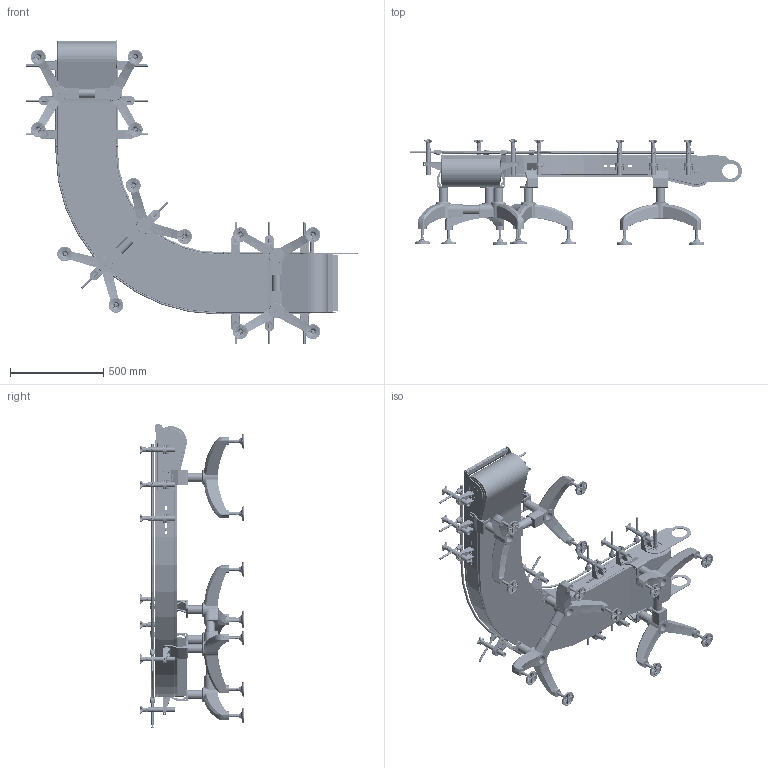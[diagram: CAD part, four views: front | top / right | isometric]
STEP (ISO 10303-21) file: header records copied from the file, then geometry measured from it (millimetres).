
FILE_DESCRIPTION(/* description */ (''),/* implementation_level */ '2;1');
FILE_NAME(/* name */ 'beltconveyor_a010b_w300_ang90.stp',/* time_stamp */ '2024-12-15T02:54:11+08:00',/* author */ (''),/* organization */ (''),/* preprocessor_version */ 'ST-DEVELOPER v16.7',/* originating_system */ 'SIEMENS PLM Software NX 12.0',/* authorisation */ '');
FILE_SCHEMA (('AUTOMOTIVE_DESIGN { 1 0 10303 214 3 1 1 1 }'));
Products named in the file (40): Return-Shaft-EMST-L-312-SS-easy_Return-Shaft-easy; Side-Guide-Profile-Hor-Curve-Right-Inner-SRR-easy_Section-2-Side-Guid
e-Profile-Hor-Curve-Right-Inner-SRR-easy; Drive-Shaft-EMST-L-312-SS-easy_Direct-Drive-Shaft-easy; Motor-Plate-EMST-L-312-SS-easy_Motor-Plate-easy; Profile-Drive-Unit-Belt-EMST-L-312-SS-easy_Profile-Drive-Unit-Belt-ea
sy; Plate-Drive-Unit-B-EMST-L-312-SS-easy_Plate-Drive-Unit-B-easy; Plate-Drive-Unit-A-EMST-L-312-SS-easy_Plate-Drive-Unit-A-easy; Top-Plate-Double-Transfer-Unit-easy_Top-Plate-Double-Transfer-Unit-ea
sy; Side-Plate-Double-Transfer-Unit-easy_Side-Plate-Double-Transfer-Unit-
easy; Profile-Middle-EMST-L-312-SS-easy_Profile-Middle-SS-easy; Hor-Curve-Profile-Right-Outer-EMST-L-312-SS-easy_Section-2-Hor-Curve-
Profile-Right-Outer-SS-easy; Hor-Curve-Profile-Right-Inner-EMST-L-312-SS-easy_Section-2-Hor-Curve-
Profile-Right-Inner-SS-easy; Hor-Curve-Profile-Belt-Right-EMST-L-312-SS-easy_Section-2-Hor-Curve-P
rofile-Belt-Right-easy; Side-Guide-Profile-Hor-Curve-Right-Outer-SRR-easy_Section-2-Side-Guid
e-Profile-Hor-Curve-Right-Outer-SRR-easy; Side-Guide-Profile-SRR-easy_Section-1-Side-Guide-Profile-SRR-easy; Top-Plate-Single-Transfer-Unit-easy_Top-Plate-Single-Transfer-Unit-ea
sy; Side-Plate-Single-Transfer-Unit-easy_Side-Plate-Single-Transfer-Unit-
easy; Support-Leg-L-SS-312x480-easy_Section-3-Support-Leg-easy; Support-Middle-Profile-L-SS-312x480-easy; Support-Leg-L-SS-312x480-easy_Section-2-Support-Leg-easy; Support-Leg-L-SS-312x480-easy_Section-1-Support-Leg-easy; Support-Bracket-L-SS-easy; Side-Guide-Arm-Hor-SS-easy_Arm-Hor-Side-Guide-easy; Side-Guide-Bracket-SS-easy; Side-Guide-Arm-Ver-SS-easy_Arm-Ver-Side-Guide-easy; Side-Guide-Profile-SRR-easy_Section-3-Side-Guide-Profile-SRR-easy; Side-Guide-Mount-SS-easy; Return-Unit-EMST-L-312-easy_Return-Unit-easy; Side-Guide-Hor-Curve-Right-Inner-Br-3-SS-SRR-easy_Section-2-Side-Guid
e-Hor-Curve-Right-Inner-SRR-easy; Direct-Drive-Unit-EMST-L-312-easy_Direct-Drive-Unit-Left-easy; Double-Transfer-Unit-easy_Double-Transfer-Unit-easy; Hor-Curve-Unit-Right-EMST-L-312-SS-easy_Section-2-Hor-Curve-Unit-Righ
t-SS-easy; Side-Guide-Hor-Curve-Right-Outer-Br-3-SS-SRR-easy_Section-2-Side-Guid
e-Hor-Curve-Right-Outer-SRR-easy; Side-Guide-Br-3-SS-SRR-easy_Section-1-Side-Guide-SRR-easy; Support-L-SS-312x480-easy_Section-1-Support-easy; Single-Transfer-Unit-easy_Single-Transfer-Unit-easy; Support-L-SS-312x480-easy_Section-3-Support-easy; Support-Right-L-SS-312x480-easy_Section-2-Support-Right-easy; Side-Guide-Br-3-SS-SRR-easy_Section-3-Side-Guide-SRR-easy; beltconveyor_a010b_w300_ang90
Assembly tree (94 placements, depth 3):
  beltconveyor_a010b_w300_ang90
    Side-Guide-Br-3-SS-SRR-easy_Section-3-Side-Guide-SRR-easy  x2
      Side-Guide-Mount-SS-easy
      Side-Guide-Profile-SRR-easy_Section-3-Side-Guide-Profile-SRR-easy
      Side-Guide-Arm-Ver-SS-easy_Arm-Ver-Side-Guide-easy
      Side-Guide-Bracket-SS-easy
      Side-Guide-Arm-Hor-SS-easy_Arm-Hor-Side-Guide-easy
    Support-Right-L-SS-312x480-easy_Section-2-Support-Right-easy
      Support-Bracket-L-SS-easy  x2
      Support-Leg-L-SS-312x480-easy_Section-1-Support-Leg-easy
      Support-Leg-L-SS-312x480-easy_Section-2-Support-Leg-easy
      Support-Middle-Profile-L-SS-312x480-easy
    Support-L-SS-312x480-easy_Section-3-Support-easy
      Support-Bracket-L-SS-easy  x2
      Support-Leg-L-SS-312x480-easy_Section-3-Support-Leg-easy  x2
      Support-Middle-Profile-L-SS-312x480-easy
    Single-Transfer-Unit-easy_Single-Transfer-Unit-easy
      Side-Plate-Single-Transfer-Unit-easy_Side-Plate-Single-Transfer-Unit-
easy  x2
      Top-Plate-Single-Transfer-Unit-easy_Top-Plate-Single-Transfer-Unit-ea
sy
    Support-L-SS-312x480-easy_Section-1-Support-easy
      Support-Middle-Profile-L-SS-312x480-easy
      Support-Leg-L-SS-312x480-easy_Section-1-Support-Leg-easy  x2
      Support-Bracket-L-SS-easy  x2
    Side-Guide-Br-3-SS-SRR-easy_Section-1-Side-Guide-SRR-easy  x2
      Side-Guide-Bracket-SS-easy
      Side-Guide-Arm-Hor-SS-easy_Arm-Hor-Side-Guide-easy
      Side-Guide-Arm-Ver-SS-easy_Arm-Ver-Side-Guide-easy
      Side-Guide-Mount-SS-easy
      Side-Guide-Profile-SRR-easy_Section-1-Side-Guide-Profile-SRR-easy
    Side-Guide-Hor-Curve-Right-Outer-Br-3-SS-SRR-easy_Section-2-Side-Guid
e-Hor-Curve-Right-Outer-SRR-easy
      Side-Guide-Arm-Hor-SS-easy_Arm-Hor-Side-Guide-easy  x3
      Side-Guide-Profile-Hor-Curve-Right-Outer-SRR-easy_Section-2-Side-Guid
e-Profile-Hor-Curve-Right-Outer-SRR-easy
      Side-Guide-Arm-Ver-SS-easy_Arm-Ver-Side-Guide-easy  x3
      Side-Guide-Bracket-SS-easy  x3
      Side-Guide-Mount-SS-easy  x3
    Hor-Curve-Unit-Right-EMST-L-312-SS-easy_Section-2-Hor-Curve-Unit-Righ
t-SS-easy
      Hor-Curve-Profile-Belt-Right-EMST-L-312-SS-easy_Section-2-Hor-Curve-P
rofile-Belt-Right-easy  x2
      Hor-Curve-Profile-Right-Inner-EMST-L-312-SS-easy_Section-2-Hor-Curve-
Profile-Right-Inner-SS-easy
      Hor-Curve-Profile-Right-Outer-EMST-L-312-SS-easy_Section-2-Hor-Curve-
Profile-Right-Outer-SS-easy
      Profile-Middle-EMST-L-312-SS-easy_Profile-Middle-SS-easy  x2
    Double-Transfer-Unit-easy_Double-Transfer-Unit-easy
      Side-Plate-Double-Transfer-Unit-easy_Side-Plate-Double-Transfer-Unit-
easy  x2
      Top-Plate-Double-Transfer-Unit-easy_Top-Plate-Double-Transfer-Unit-ea
sy
    Direct-Drive-Unit-EMST-L-312-easy_Direct-Drive-Unit-Left-easy
      Plate-Drive-Unit-A-EMST-L-312-SS-easy_Plate-Drive-Unit-A-easy
      Plate-Drive-Unit-B-EMST-L-312-SS-easy_Plate-Drive-Unit-B-easy
      Profile-Drive-Unit-Belt-EMST-L-312-SS-easy_Profile-Drive-Unit-Belt-ea
sy
      Motor-Plate-EMST-L-312-SS-easy_Motor-Plate-easy
      Drive-Shaft-EMST-L-312-SS-easy_Direct-Drive-Shaft-easy
    Side-Guide-Hor-Curve-Right-Inner-Br-3-SS-SRR-easy_Section-2-Side-Guid
e-Hor-Curve-Right-Inner-SRR-easy
      Side-Guide-Arm-Hor-SS-easy_Arm-Hor-Side-Guide-easy  x3
      Side-Guide-Arm-Ver-SS-easy_Arm-Ver-Side-Guide-easy  x3
      Side-Guide-Mount-SS-easy  x3
      Side-Guide-Bracket-SS-easy  x3
      Side-Guide-Profile-Hor-Curve-Right-Inner-SRR-easy_Section-2-Side-Guid
e-Profile-Hor-Curve-Right-Inner-SRR-easy
    Return-Unit-EMST-L-312-easy_Return-Unit-easy
      Return-Shaft-EMST-L-312-SS-easy_Return-Shaft-easy
      Plate-Drive-Unit-A-EMST-L-312-SS-easy_Plate-Drive-Unit-A-easy
      Plate-Drive-Unit-B-EMST-L-312-SS-easy_Plate-Drive-Unit-B-easy
      Profile-Drive-Unit-Belt-EMST-L-312-SS-easy_Profile-Drive-Unit-Belt-ea
sy
Bounding box: 1784 x 562.9 x 1633.25 mm (x, y, z)
Volume: 39596474.8 mm3; surface area: 8524727.5 mm2
Topology: 110 solids, 122 shells, 10884 faces, 27035 edges, 16598 vertices
Faces by surface type: cylinder 2928, plane 2867, bspline 2056, torus 1460, cone 1190, sphere 260, extrusion 123
Entity records: 133844 total; most frequent: CARTESIAN_POINT 57222, ORIENTED_EDGE 16268, DIRECTION 14300, EDGE_CURVE 8134, AXIS2_PLACEMENT_3D 5743, VERTEX_POINT 5140, EDGE_LOOP 3448, ADVANCED_FACE 3214
